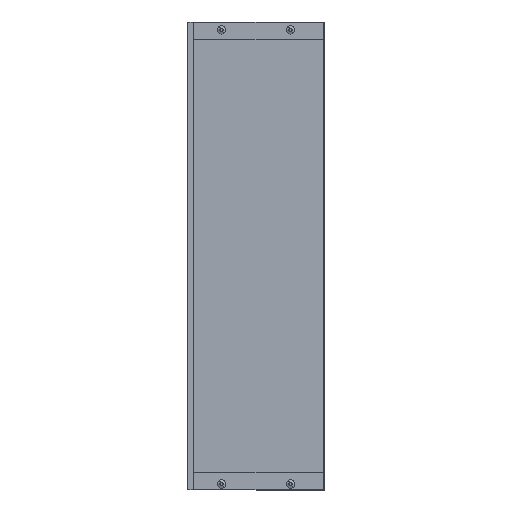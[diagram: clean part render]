
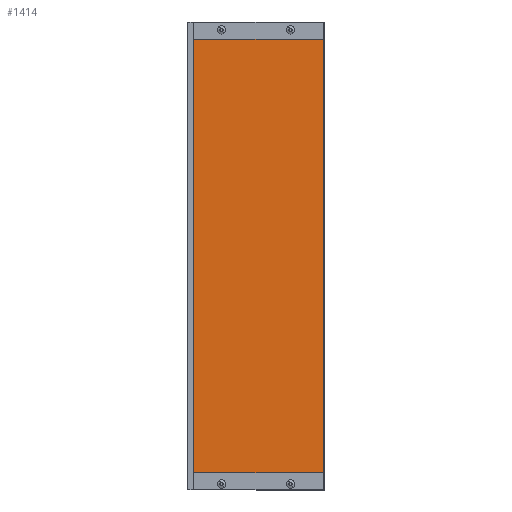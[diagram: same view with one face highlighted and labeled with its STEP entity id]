
A CAD part, front view. The second image highlights one B-rep face of the part: STEP entity #1414.
In plain terms, the highlighted planar face has unit normal (0, -1, 0).
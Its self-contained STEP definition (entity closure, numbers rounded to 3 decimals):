
#127 = CARTESIAN_POINT ( 'NONE',  ( -6.6, 61.1, 25. ) ) ;
#309 = DIRECTION ( 'NONE',  ( -1., 0., 0. ) ) ;
#492 = VECTOR ( 'NONE', #1166, 1000. ) ;
#508 = DIRECTION ( 'NONE',  ( 0., 1., 0. ) ) ;
#628 = CARTESIAN_POINT ( 'NONE',  ( -6.6, 61.1, 679. ) ) ;
#844 = CARTESIAN_POINT ( 'NONE',  ( 188.6, 61.1, 654. ) ) ;
#848 = LINE ( 'NONE', #1606, #3030 ) ;
#960 = LINE ( 'NONE', #3271, #1033 ) ;
#972 = CARTESIAN_POINT ( 'NONE',  ( -8., 61.1, 679. ) ) ;
#1033 = VECTOR ( 'NONE', #3004, 1000. ) ;
#1041 = EDGE_CURVE ( 'NONE', #2740, #1234, #1648, .T. ) ;
#1059 = ORIENTED_EDGE ( 'NONE', *, *, #1778, .T. ) ;
#1166 = DIRECTION ( 'NONE',  ( 0., 0., -1. ) ) ;
#1234 = VERTEX_POINT ( 'NONE', #127 ) ;
#1249 = PLANE ( 'NONE',  #1303 ) ;
#1303 = AXIS2_PLACEMENT_3D ( 'NONE', #972, #508, #2013 ) ;
#1336 = CARTESIAN_POINT ( 'NONE',  ( -6.6, 61.1, 654. ) ) ;
#1414 = ADVANCED_FACE ( 'NONE', ( #2034 ), #1249, .F. ) ;
#1606 = CARTESIAN_POINT ( 'NONE',  ( 0., 61.1, 654. ) ) ;
#1648 = LINE ( 'NONE', #2703, #2702 ) ;
#1778 = EDGE_CURVE ( 'NONE', #2740, #2235, #960, .T. ) ;
#1998 = ORIENTED_EDGE ( 'NONE', *, *, #2909, .T. ) ;
#2013 = DIRECTION ( 'NONE',  ( 0., 0., 1. ) ) ;
#2034 = FACE_OUTER_BOUND ( 'NONE', #2735, .T. ) ;
#2235 = VERTEX_POINT ( 'NONE', #844 ) ;
#2379 = DIRECTION ( 'NONE',  ( -1., 0., 0. ) ) ;
#2481 = EDGE_CURVE ( 'NONE', #2235, #3256, #848, .T. ) ;
#2576 = ORIENTED_EDGE ( 'NONE', *, *, #1041, .F. ) ;
#2702 = VECTOR ( 'NONE', #309, 1000. ) ;
#2703 = CARTESIAN_POINT ( 'NONE',  ( -8., 61.1, 25. ) ) ;
#2731 = LINE ( 'NONE', #628, #492 ) ;
#2735 = EDGE_LOOP ( 'NONE', ( #1998, #2576, #1059, #3103 ) ) ;
#2740 = VERTEX_POINT ( 'NONE', #3392 ) ;
#2909 = EDGE_CURVE ( 'NONE', #3256, #1234, #2731, .T. ) ;
#3004 = DIRECTION ( 'NONE',  ( 0., 0., 1. ) ) ;
#3030 = VECTOR ( 'NONE', #2379, 1000. ) ;
#3103 = ORIENTED_EDGE ( 'NONE', *, *, #2481, .T. ) ;
#3256 = VERTEX_POINT ( 'NONE', #1336 ) ;
#3271 = CARTESIAN_POINT ( 'NONE',  ( 188.6, 61.1, 679. ) ) ;
#3392 = CARTESIAN_POINT ( 'NONE',  ( 188.6, 61.1, 25. ) ) ;
